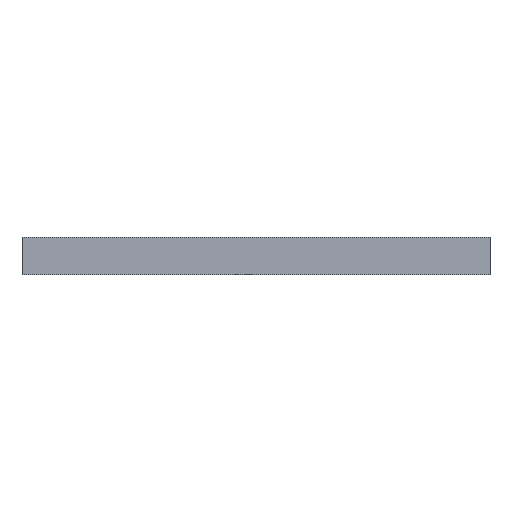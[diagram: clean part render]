
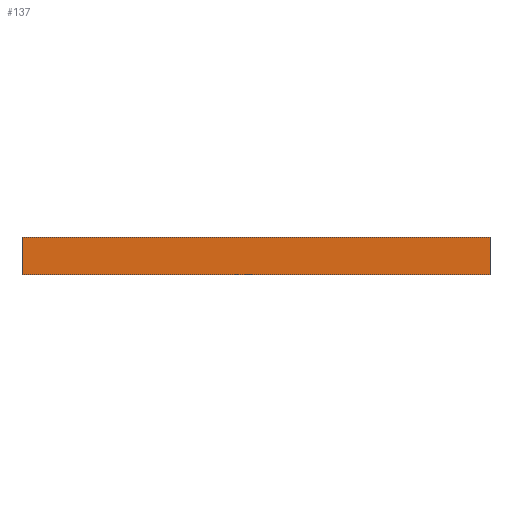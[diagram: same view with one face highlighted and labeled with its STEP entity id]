
A CAD part, front view. The second image highlights one B-rep face of the part: STEP entity #137.
In plain terms, the highlighted planar face has unit normal (0, -1, 0).
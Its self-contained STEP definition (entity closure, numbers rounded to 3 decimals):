
#21 = EDGE_CURVE('',#22,#24,#26,.T.);
#22 = VERTEX_POINT('',#23);
#23 = CARTESIAN_POINT('',(0.,0.,0.));
#24 = VERTEX_POINT('',#25);
#25 = CARTESIAN_POINT('',(0.,0.,4.));
#26 = SURFACE_CURVE('',#27,(#31,#43),.PCURVE_S1.);
#27 = LINE('',#28,#29);
#28 = CARTESIAN_POINT('',(0.,0.,0.));
#29 = VECTOR('',#30,1.);
#30 = DIRECTION('',(0.,0.,1.));
#31 = PCURVE('',#32,#37);
#32 = PLANE('',#33);
#33 = AXIS2_PLACEMENT_3D('',#34,#35,#36);
#34 = CARTESIAN_POINT('',(0.,0.,0.));
#35 = DIRECTION('',(1.,0.,0.));
#36 = DIRECTION('',(0.,0.,1.));
#37 = DEFINITIONAL_REPRESENTATION('',(#38),#42);
#38 = LINE('',#39,#40);
#39 = CARTESIAN_POINT('',(0.,0.));
#40 = VECTOR('',#41,1.);
#41 = DIRECTION('',(1.,0.));
#42 = ( GEOMETRIC_REPRESENTATION_CONTEXT(2) 
PARAMETRIC_REPRESENTATION_CONTEXT() REPRESENTATION_CONTEXT('2D SPACE',''
  ) );
#43 = PCURVE('',#44,#49);
#44 = PLANE('',#45);
#45 = AXIS2_PLACEMENT_3D('',#46,#47,#48);
#46 = CARTESIAN_POINT('',(0.,0.,0.));
#47 = DIRECTION('',(0.,1.,0.));
#48 = DIRECTION('',(0.,0.,1.));
#49 = DEFINITIONAL_REPRESENTATION('',(#50),#54);
#50 = LINE('',#51,#52);
#51 = CARTESIAN_POINT('',(0.,0.));
#52 = VECTOR('',#53,1.);
#53 = DIRECTION('',(1.,0.));
#54 = ( GEOMETRIC_REPRESENTATION_CONTEXT(2) 
PARAMETRIC_REPRESENTATION_CONTEXT() REPRESENTATION_CONTEXT('2D SPACE',''
  ) );
#72 = PLANE('',#73);
#73 = AXIS2_PLACEMENT_3D('',#74,#75,#76);
#74 = CARTESIAN_POINT('',(0.,0.,0.));
#75 = DIRECTION('',(0.,0.,1.));
#76 = DIRECTION('',(1.,0.,0.));
#126 = PLANE('',#127);
#127 = AXIS2_PLACEMENT_3D('',#128,#129,#130);
#128 = CARTESIAN_POINT('',(0.,0.,4.));
#129 = DIRECTION('',(0.,0.,1.));
#130 = DIRECTION('',(1.,0.,0.));
#137 = ADVANCED_FACE('',(#138),#44,.F.);
#138 = FACE_BOUND('',#139,.F.);
#139 = EDGE_LOOP('',(#140,#163,#164,#187));
#140 = ORIENTED_EDGE('',*,*,#141,.F.);
#141 = EDGE_CURVE('',#22,#142,#144,.T.);
#142 = VERTEX_POINT('',#143);
#143 = CARTESIAN_POINT('',(50.,0.,0.));
#144 = SURFACE_CURVE('',#145,(#149,#156),.PCURVE_S1.);
#145 = LINE('',#146,#147);
#146 = CARTESIAN_POINT('',(0.,0.,0.));
#147 = VECTOR('',#148,1.);
#148 = DIRECTION('',(1.,0.,0.));
#149 = PCURVE('',#44,#150);
#150 = DEFINITIONAL_REPRESENTATION('',(#151),#155);
#151 = LINE('',#152,#153);
#152 = CARTESIAN_POINT('',(0.,0.));
#153 = VECTOR('',#154,1.);
#154 = DIRECTION('',(0.,1.));
#155 = ( GEOMETRIC_REPRESENTATION_CONTEXT(2) 
PARAMETRIC_REPRESENTATION_CONTEXT() REPRESENTATION_CONTEXT('2D SPACE',''
  ) );
#156 = PCURVE('',#72,#157);
#157 = DEFINITIONAL_REPRESENTATION('',(#158),#162);
#158 = LINE('',#159,#160);
#159 = CARTESIAN_POINT('',(0.,0.));
#160 = VECTOR('',#161,1.);
#161 = DIRECTION('',(1.,0.));
#162 = ( GEOMETRIC_REPRESENTATION_CONTEXT(2) 
PARAMETRIC_REPRESENTATION_CONTEXT() REPRESENTATION_CONTEXT('2D SPACE',''
  ) );
#163 = ORIENTED_EDGE('',*,*,#21,.T.);
#164 = ORIENTED_EDGE('',*,*,#165,.T.);
#165 = EDGE_CURVE('',#24,#166,#168,.T.);
#166 = VERTEX_POINT('',#167);
#167 = CARTESIAN_POINT('',(50.,0.,4.));
#168 = SURFACE_CURVE('',#169,(#173,#180),.PCURVE_S1.);
#169 = LINE('',#170,#171);
#170 = CARTESIAN_POINT('',(0.,0.,4.));
#171 = VECTOR('',#172,1.);
#172 = DIRECTION('',(1.,0.,0.));
#173 = PCURVE('',#44,#174);
#174 = DEFINITIONAL_REPRESENTATION('',(#175),#179);
#175 = LINE('',#176,#177);
#176 = CARTESIAN_POINT('',(4.,0.));
#177 = VECTOR('',#178,1.);
#178 = DIRECTION('',(0.,1.));
#179 = ( GEOMETRIC_REPRESENTATION_CONTEXT(2) 
PARAMETRIC_REPRESENTATION_CONTEXT() REPRESENTATION_CONTEXT('2D SPACE',''
  ) );
#180 = PCURVE('',#126,#181);
#181 = DEFINITIONAL_REPRESENTATION('',(#182),#186);
#182 = LINE('',#183,#184);
#183 = CARTESIAN_POINT('',(0.,0.));
#184 = VECTOR('',#185,1.);
#185 = DIRECTION('',(1.,0.));
#186 = ( GEOMETRIC_REPRESENTATION_CONTEXT(2) 
PARAMETRIC_REPRESENTATION_CONTEXT() REPRESENTATION_CONTEXT('2D SPACE',''
  ) );
#187 = ORIENTED_EDGE('',*,*,#188,.F.);
#188 = EDGE_CURVE('',#142,#166,#189,.T.);
#189 = SURFACE_CURVE('',#190,(#194,#201),.PCURVE_S1.);
#190 = LINE('',#191,#192);
#191 = CARTESIAN_POINT('',(50.,0.,0.));
#192 = VECTOR('',#193,1.);
#193 = DIRECTION('',(0.,0.,1.));
#194 = PCURVE('',#44,#195);
#195 = DEFINITIONAL_REPRESENTATION('',(#196),#200);
#196 = LINE('',#197,#198);
#197 = CARTESIAN_POINT('',(0.,50.));
#198 = VECTOR('',#199,1.);
#199 = DIRECTION('',(1.,0.));
#200 = ( GEOMETRIC_REPRESENTATION_CONTEXT(2) 
PARAMETRIC_REPRESENTATION_CONTEXT() REPRESENTATION_CONTEXT('2D SPACE',''
  ) );
#201 = PCURVE('',#202,#207);
#202 = PLANE('',#203);
#203 = AXIS2_PLACEMENT_3D('',#204,#205,#206);
#204 = CARTESIAN_POINT('',(50.,0.,0.));
#205 = DIRECTION('',(1.,0.,0.));
#206 = DIRECTION('',(0.,0.,1.));
#207 = DEFINITIONAL_REPRESENTATION('',(#208),#212);
#208 = LINE('',#209,#210);
#209 = CARTESIAN_POINT('',(0.,0.));
#210 = VECTOR('',#211,1.);
#211 = DIRECTION('',(1.,0.));
#212 = ( GEOMETRIC_REPRESENTATION_CONTEXT(2) 
PARAMETRIC_REPRESENTATION_CONTEXT() REPRESENTATION_CONTEXT('2D SPACE',''
  ) );
